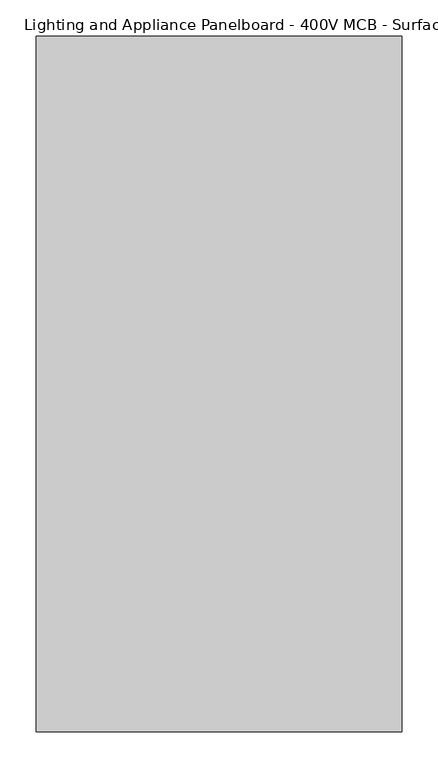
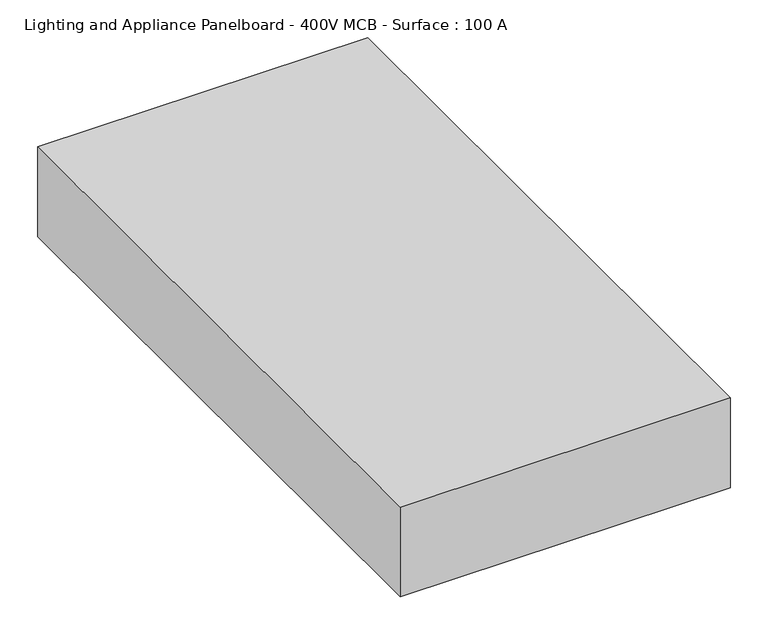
"""IFC4 building model written with IfcOpenShell, lengths in millimetres: proxy geometry, Lighting and Appliance Panelboard - 400V MCB - Surface : 100 A."""

from ifc_helpers import new_model, si_unit, origin, origin_with_axes, place, context, project, spatial, polyline, outline, extrude, source, transform, mapped, element, save


def lighting_and_appliance_panelboard_400v_mcb_surface_100_a_7dc0af96(model_context):
    return source(origin(), model_context, "Body", "SweptSolid", [
        extrude(outline(polyline([(254.0, -965.2), (-254.0, -965.2), (-254.0, 0.0), (254.0, 0.0), (254.0, -965.2)])), origin_with_axes(), (0.0, 0.0, 1.0), 146.1),
    ])


if __name__ == "__main__":
    model = new_model("IFC4")
    model_context = context("Model", 3, world=origin())
    ifc_project = project(units=[si_unit("LENGTHUNIT", "METRE", prefix="MILLI")], contexts=[model_context])
    site = spatial("IfcSite", under=ifc_project)
    building = spatial("IfcBuilding", under=site)
    placement = place(None, origin())
    lighting_and_appliance_panelboard_400v_mcb_surface_100_a_shape = lighting_and_appliance_panelboard_400v_mcb_surface_100_a_7dc0af96(model_context)
    element("IfcBuildingElementProxy", 1, Name="Lighting and Appliance Panelboard - 400V MCB - Surface : 100 A", ObjectType="Lighting and Appliance Panelboard - 400V MCB - Surface : 100 A", at=placement, inside=building, context=model_context, shape_type="MappedRepresentation", body=[
        mapped(lighting_and_appliance_panelboard_400v_mcb_surface_100_a_shape, transform((0.0, 0.0, 0.0), x_axis=(1.0, 0.0, 0.0), y_axis=(0.0, 1.0, 0.0), z_axis=(0.0, 0.0, 1.0))),
    ])
    save(model, "model.ifc")
